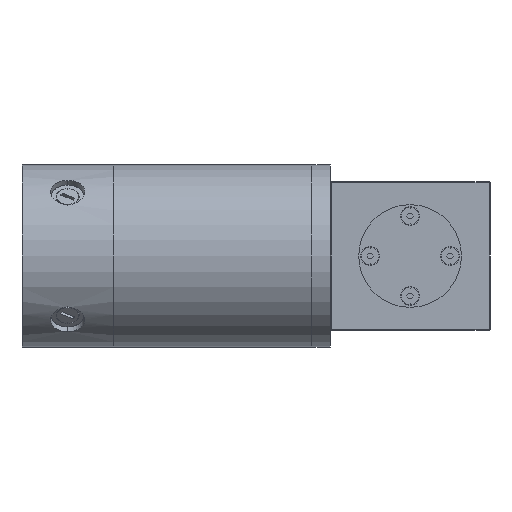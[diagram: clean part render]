
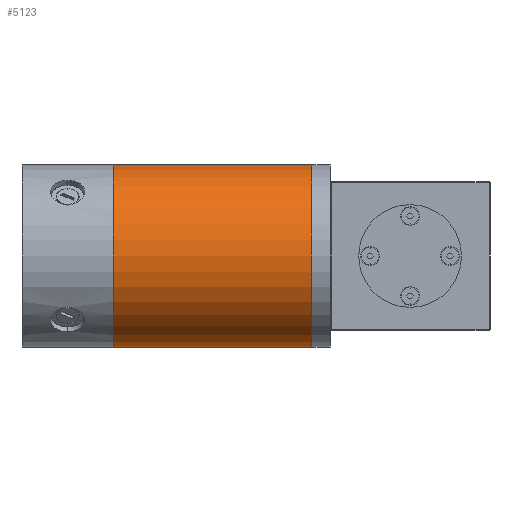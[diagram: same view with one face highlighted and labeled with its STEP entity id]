
A CAD part, left-side view. The second image highlights one B-rep face of the part: STEP entity #5123.
In plain terms, the highlighted cylindrical face has radius 50.8 mm (diameter 101.6 mm), a partial arc.
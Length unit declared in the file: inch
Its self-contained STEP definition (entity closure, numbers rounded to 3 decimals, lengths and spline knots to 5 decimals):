
#20 = VECTOR ( 'NONE', #34553, 39.37008 ) ;
#114 = DIRECTION ( 'NONE',  ( 0., -1., 0. ) ) ;
#2437 = CARTESIAN_POINT ( 'NONE',  ( 7.41726, 8.61131, 2.88268 ) ) ;
#2978 = DIRECTION ( 'NONE',  ( 0., -1., 0. ) ) ;
#3195 = FACE_OUTER_BOUND ( 'NONE', #20894, .T. ) ;
#4056 = ORIENTED_EDGE ( 'NONE', *, *, #40323, .T. ) ;
#4626 = EDGE_CURVE ( 'NONE', #37119, #49815, #6674, .T. ) ;
#4889 = CARTESIAN_POINT ( 'NONE',  ( 7.41726, 14.26817, 4.88268 ) ) ;
#5123 = ADVANCED_FACE ( 'NONE', ( #3195 ), #25064, .T. ) ;
#5216 = CARTESIAN_POINT ( 'NONE',  ( 7.41726, 4.26131, 2.88268 ) ) ;
#6450 = ORIENTED_EDGE ( 'NONE', *, *, #38466, .T. ) ;
#6674 = CIRCLE ( 'NONE', #49141, 2. ) ;
#7552 = ORIENTED_EDGE ( 'NONE', *, *, #4626, .T. ) ;
#9166 = CARTESIAN_POINT ( 'NONE',  ( 7.41726, 14.26817, 0.88268 ) ) ;
#10456 = EDGE_CURVE ( 'NONE', #27563, #49815, #38348, .T. ) ;
#11692 = CARTESIAN_POINT ( 'NONE',  ( 7.41726, 4.26131, 4.88268 ) ) ;
#15916 = CIRCLE ( 'NONE', #19780, 2. ) ;
#17759 = AXIS2_PLACEMENT_3D ( 'NONE', #50785, #37802, #20474 ) ;
#18378 = CARTESIAN_POINT ( 'NONE',  ( 7.41726, 8.61131, 0.88268 ) ) ;
#19780 = AXIS2_PLACEMENT_3D ( 'NONE', #2437, #2978, #37913 ) ;
#20474 = DIRECTION ( 'NONE',  ( 0., 0., 1. ) ) ;
#20894 = EDGE_LOOP ( 'NONE', ( #6450, #4056, #7552, #54085 ) ) ;
#25064 = CYLINDRICAL_SURFACE ( 'NONE', #17759, 2. ) ;
#26700 = VECTOR ( 'NONE', #114, 39.37008 ) ;
#26764 = DIRECTION ( 'NONE',  ( 0., 1., 0. ) ) ;
#27563 = VERTEX_POINT ( 'NONE', #55691 ) ;
#34553 = DIRECTION ( 'NONE',  ( 0., -1., 0. ) ) ;
#37119 = VERTEX_POINT ( 'NONE', #44155 ) ;
#37802 = DIRECTION ( 'NONE',  ( 0., -1., 0. ) ) ;
#37913 = DIRECTION ( 'NONE',  ( 0., 0., 1. ) ) ;
#38348 = LINE ( 'NONE', #4889, #26700 ) ;
#38466 = EDGE_CURVE ( 'NONE', #27563, #43830, #15916, .T. ) ;
#40323 = EDGE_CURVE ( 'NONE', #43830, #37119, #47826, .T. ) ;
#43830 = VERTEX_POINT ( 'NONE', #18378 ) ;
#44155 = CARTESIAN_POINT ( 'NONE',  ( 7.41726, 4.26131, 0.88268 ) ) ;
#47826 = LINE ( 'NONE', #9166, #20 ) ;
#49141 = AXIS2_PLACEMENT_3D ( 'NONE', #5216, #26764, #53108 ) ;
#49815 = VERTEX_POINT ( 'NONE', #11692 ) ;
#50785 = CARTESIAN_POINT ( 'NONE',  ( 7.41726, 14.26817, 2.88268 ) ) ;
#53108 = DIRECTION ( 'NONE',  ( 0., 0., -1. ) ) ;
#54085 = ORIENTED_EDGE ( 'NONE', *, *, #10456, .F. ) ;
#55691 = CARTESIAN_POINT ( 'NONE',  ( 7.41726, 8.61131, 4.88268 ) ) ;
